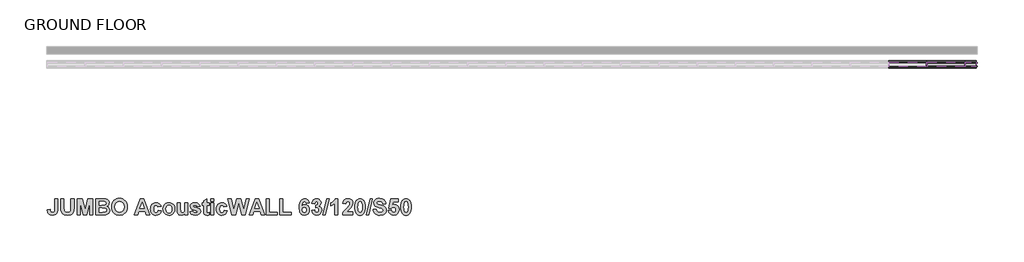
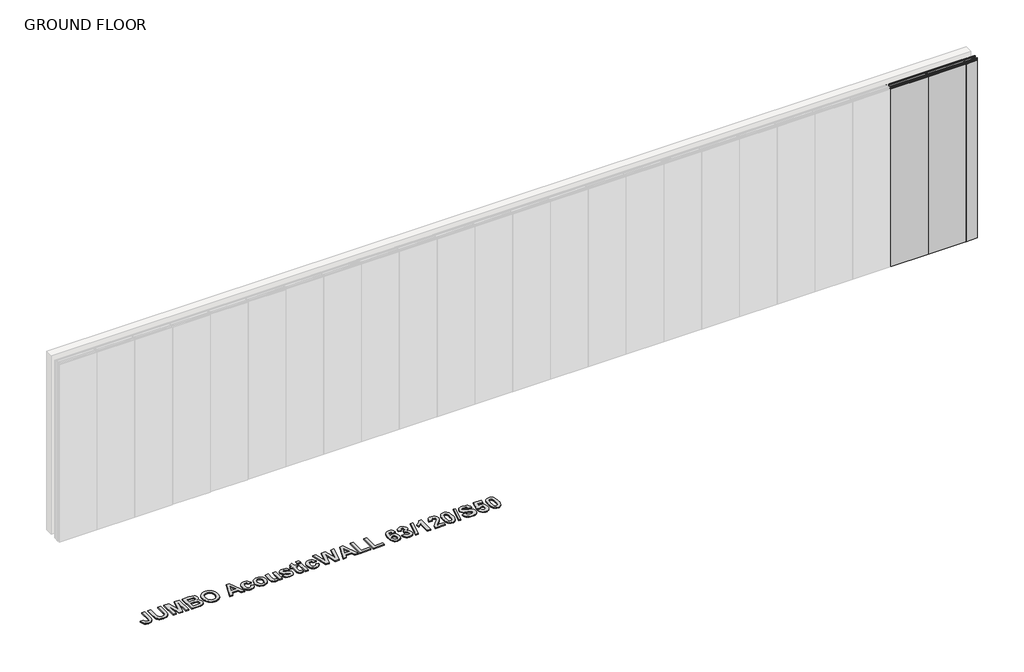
# One storey, part 2 of 2: 8 members, 3 plates, 1 proxy.
"""IFC4 building model written with IfcOpenShell, lengths in millimetres."""

import ifcopenshell
import ifcopenshell.guid

model = None  # the IFC model being written
_history = None  # IfcOwnerHistory: only IFC2X3 demands one
_inside = {}  # id of a spatial element -> (the spatial element, [elements in it])
_under = {}  # id of a project, library or spatial element -> (it, [spatial elements below it])
_declared = {}  # id of a project -> (the project, [libraries it declares])
_typed = {}  # id of a type object -> (the type object, [elements of that type])
_made_of = {}  # id of a material, layer set ... -> (it, [elements and type objects made of it])


def new_model(schema):
    """Start an empty IFC model of exactly this schema.

    Asked for "IFC4X3", IfcOpenShell would pick the latest addendum, in which some entities
    have other attributes; the version numbers below select the first issue.
    IFC2X3 requires an IfcOwnerHistory on every rooted entity: one is made here for all.
    """
    global model, _history
    if schema == "IFC4X3":
        model = ifcopenshell.file(schema_version=(4, 3, 0, 0))
    else:
        model = ifcopenshell.file(schema=schema)
    _inside.clear()
    _under.clear()
    _declared.clear()
    _typed.clear()
    _made_of.clear()
    _history = None
    if model.schema == "IFC2X3":
        org = make("IfcOrganization", Name="unknown")
        user = make(
            "IfcPersonAndOrganization",
            ThePerson=make("IfcPerson", FamilyName="unknown"),
            TheOrganization=org,
        )
        app = make(
            "IfcApplication",
            ApplicationDeveloper=org,
            Version="unknown",
            ApplicationFullName="unknown",
            ApplicationIdentifier="unknown",
        )
        _history = make(
            "IfcOwnerHistory",
            OwningUser=user,
            OwningApplication=app,
            ChangeAction="ADDED",
            CreationDate=0,
        )
    return model


def make(cls, **values):
    """One entity of the class cls with the attributes given. An attribute that is None is left unset."""
    return model.create_entity(
        cls, **{name: value for name, value in values.items() if value is not None}
    )


def rooted(cls, **values):
    """An entity with a GlobalId (a new one), such as an element, a storey or a relation."""
    return make(cls, GlobalId=ifcopenshell.guid.new(), OwnerHistory=_history, **values)


def si_unit(unit_type, name, prefix=None):
    """IfcSIUnit, for example si_unit("LENGTHUNIT", "METRE", prefix="MILLI")."""
    return make("IfcSIUnit", UnitType=unit_type, Prefix=prefix, Name=name)


def assignment(units):
    """IfcUnitAssignment: the units of a project."""
    return None if units is None else make("IfcUnitAssignment", Units=units)


def point(xyz):
    """IfcCartesianPoint."""
    return None if xyz is None else make("IfcCartesianPoint", Coordinates=xyz)


def direction(xyz):
    """IfcDirection."""
    return None if xyz is None else make("IfcDirection", DirectionRatios=xyz)


def frame(location, z_axis=None, x_axis=None):
    """IfcAxis2Placement3D, a coordinate frame: its origin and axes. An axis left out is left unset."""
    return make(
        "IfcAxis2Placement3D",
        Location=point(location),
        Axis=direction(z_axis),
        RefDirection=direction(x_axis),
    )


def origin():
    """The frame at (0, 0, 0) with its axes left unset."""
    return frame((0.0, 0.0, 0.0))


def origin_with_axes():
    """The frame at (0, 0, 0) with the z axis (0, 0, 1) and the x axis (1, 0, 0) written out."""
    return frame((0.0, 0.0, 0.0), z_axis=(0.0, 0.0, 1.0), x_axis=(1.0, 0.0, 0.0))


def place(relative_to, where):
    """IfcLocalPlacement: puts the frame where relative to a parent placement (None: the world)."""
    return make(
        "IfcLocalPlacement", PlacementRelTo=relative_to, RelativePlacement=where
    )


def context(
    kind, dimensions, precision=None, world=None, true_north=None, identifier=None
):
    """IfcGeometricRepresentationContext, for example the 3D "Model" context."""
    return make(
        "IfcGeometricRepresentationContext",
        ContextIdentifier=identifier,
        ContextType=kind,
        CoordinateSpaceDimension=dimensions,
        Precision=precision,
        WorldCoordinateSystem=world,
        TrueNorth=true_north,
    )


def project(units=None, contexts=None):
    """IfcProject with its units and contexts."""
    return rooted(
        "IfcProject",
        Name="project",
        RepresentationContexts=contexts,
        UnitsInContext=assignment(units),
    )


def spatial(cls, under=None, at=None, **own):
    """A site, building, storey or space (cls), placed at a placement, below another one or the project."""
    s = rooted(cls, ObjectPlacement=at, **own)
    if under is not None:
        _under.setdefault(under.id(), (under, []))[1].append(s)
    return s


def polyline(points):
    """IfcPolyline through the points."""
    return make("IfcPolyline", Points=[point(p) for p in points])


def outline(outer, holes=None, kind="AREA"):
    """IfcArbitraryClosedProfileDef: a profile drawn as a closed curve; with holes, ...WithVoids."""
    if holes is None:
        return make("IfcArbitraryClosedProfileDef", ProfileType=kind, OuterCurve=outer)
    return make(
        "IfcArbitraryProfileDefWithVoids",
        ProfileType=kind,
        OuterCurve=outer,
        InnerCurves=holes,
    )


def extrude(swept, where, along, depth):
    """IfcExtrudedAreaSolid: the profile swept, set in the frame where, extruded along a direction by depth."""
    return make(
        "IfcExtrudedAreaSolid",
        SweptArea=swept,
        Position=where,
        ExtrudedDirection=direction(along),
        Depth=depth,
    )


def shape(context_of_items, identifier, shape_type, items):
    """IfcShapeRepresentation: the items that make up one representation, for example the "Body"."""
    return make(
        "IfcShapeRepresentation",
        ContextOfItems=context_of_items,
        RepresentationIdentifier=identifier,
        RepresentationType=shape_type,
        Items=items,
    )


def source(mapping_origin, context_of_items, identifier, shape_type, items):
    """IfcRepresentationMap: a shape defined once, which mapped items show again and again."""
    return make(
        "IfcRepresentationMap",
        MappingOrigin=mapping_origin,
        MappedRepresentation=shape(context_of_items, identifier, shape_type, items),
    )


def transform(
    local_origin,
    x_axis=None,
    y_axis=None,
    z_axis=None,
    scale=None,
    scale2=None,
    scale3=None,
    uniform=True,
):
    """IfcCartesianTransformationOperator3D, or its non-uniform kind. x_axis, y_axis, z_axis: its Axis1, 2, 3."""
    if uniform:
        return make(
            "IfcCartesianTransformationOperator3D",
            Axis1=direction(x_axis),
            Axis2=direction(y_axis),
            LocalOrigin=point(local_origin),
            Scale=scale,
            Axis3=direction(z_axis),
        )
    return make(
        "IfcCartesianTransformationOperator3DnonUniform",
        Axis1=direction(x_axis),
        Axis2=direction(y_axis),
        LocalOrigin=point(local_origin),
        Scale=scale,
        Axis3=direction(z_axis),
        Scale2=scale2,
        Scale3=scale3,
    )


def mapped(mapping_source, mapping_target):
    """IfcMappedItem: shows the shape of a source again, moved by a transform."""
    return make(
        "IfcMappedItem", MappingSource=mapping_source, MappingTarget=mapping_target
    )


def made_of(thing, what):
    """Note that an element or type object is made of a material, layer set ...; save() writes the relation."""
    if what is not None:
        _made_of.setdefault(what.id(), (what, []))[1].append(thing)
    return thing


def element(
    cls,
    number,
    at=None,
    inside=None,
    cuts=None,
    type_object=None,
    material=None,
    context=None,
    identifier="Body",
    shape_type=None,
    held_by="IfcProductDefinitionShape",
    body=None,
    shapes=None,
    **own,
):
    """One element of the class cls, such as IfcWall. Its Tag is "e" and its number.

    at: its placement. inside: the storey or other place that contains it. cuts: it is an
    opening in that element (IfcRelVoidsElement). A single representation is given by context,
    identifier, shape_type and body (its items); several are given by shapes. held_by: the class
    of the entity that holds the representations. save() writes the other relations.
    """
    e = rooted(cls, Tag="e%d" % number, ObjectPlacement=at, **own)
    if body is not None:
        shapes = [shape(context, identifier, shape_type, body)]
    if shapes is not None:
        e.Representation = make(held_by, Representations=shapes)
    if inside is not None:
        _inside.setdefault(inside.id(), (inside, []))[1].append(e)
    if cuts is not None:
        rooted(
            "IfcRelVoidsElement", RelatingBuildingElement=cuts, RelatedOpeningElement=e
        )
    if type_object is not None:
        _typed.setdefault(type_object.id(), (type_object, []))[1].append(e)
    return made_of(e, material)


def aggregate(whole, parts):
    """IfcRelAggregates: a whole, such as a stair, and the parts it consists of."""
    return rooted("IfcRelAggregates", RelatingObject=whole, RelatedObjects=parts)


def save(model, path):
    """Write the relations noted so far, then the file.

    IfcRelAggregates (storeys below a building ...), IfcRelContainedInSpatialStructure (elements
    in a storey), IfcRelDefinesByType, IfcRelAssociatesMaterial and IfcRelDeclares: one each for
    every whole, place, type object, material and project.
    """
    for whole, parts in _under.values():
        aggregate(whole, parts)
    for where, things in _inside.values():
        rooted(
            "IfcRelContainedInSpatialStructure",
            RelatedElements=things,
            RelatingStructure=where,
        )
    for kind, things in _typed.values():
        rooted("IfcRelDefinesByType", RelatedObjects=things, RelatingType=kind)
    for what, things in _made_of.values():
        rooted("IfcRelAssociatesMaterial", RelatedObjects=things, RelatingMaterial=what)
    for by, libraries in _declared.values():
        rooted("IfcRelDeclares", RelatingContext=by, RelatedDefinitions=libraries)
    model.write(path)


def rectangular_mullion_stud_mullion_63mm_b2ef130e(model_context):
    return source(origin(), model_context, "Body", "SweptSolid", [
        extrude(outline(polyline([(0.0, 23.5), (-1.6, 23.5), (-1.6, 29.9), (-17.4, 29.9), (-17.4, -29.9), (-1.6, -29.9), (-1.6, -23.5), (0.0, -23.5), (0.0, -31.5), (-19.0, -31.5), (-19.0, 31.5), (0.0, 31.5), (0.0, 23.5)])), frame((0.0, 0.0, -161.9999997), z_axis=(0.0, 0.0, 1.0), x_axis=(1.0, 0.0, 0.0)), (0.0, 0.0, 1.0), 161.9999997),
    ])


def rectangular_mullion_stud_mullion_63mm_af775e70(model_context):
    return source(origin(), model_context, "Body", "SweptSolid", [
        extrude(outline(polyline([(-19.0, 23.5), (-19.0, 31.5), (0.0, 31.5), (0.0, -31.5), (-19.0, -31.5), (-19.0, -23.5), (-17.4, -23.5), (-17.4, -29.9), (-1.6, -29.9), (-1.6, 29.9), (-17.4, 29.9), (-17.4, 23.5), (-19.0, 23.5)])), frame((0.0, 0.0, -581.0000003), z_axis=(0.0, 0.0, 1.0), x_axis=(1.0, 0.0, 0.0)), (0.0, 0.0, 1.0), 581.0000003),
    ])


def rectangular_mullion_stud_mullion_63mm_c22ba0a2(model_context):
    return source(origin(), model_context, "Body", "SweptSolid", [
        extrude(outline(polyline([(0.0, 23.5), (-1.6, 23.5), (-1.6, 29.9), (-17.4, 29.9), (-17.4, -29.9), (-1.6, -29.9), (-1.6, -23.5), (0.0, -23.5), (0.0, -31.5), (-19.0, -31.5), (-19.0, 31.5), (0.0, 31.5), (0.0, 23.5)])), frame((0.0, 0.0, -3000.0), z_axis=(0.0, 0.0, 1.0), x_axis=(1.0, 0.0, 0.0)), (0.0, 0.0, 1.0), 3000.0),
    ])


def rectangular_mullion_stud_mullion_63mm_ab3eab4e(model_context):
    return source(origin(), model_context, "Body", "SweptSolid", [
        extrude(outline(polyline([(0.0, 23.5), (-1.6, 23.5), (-1.6, 29.9), (-17.4, 29.9), (-17.4, -29.9), (-1.6, -29.9), (-1.6, -23.5), (0.0, -23.5), (0.0, -31.5), (-19.0, -31.5), (-19.0, 31.5), (0.0, 31.5), (0.0, 23.5)])), frame((0.0, 0.0, -581.0000003), z_axis=(0.0, 0.0, 1.0), x_axis=(1.0, 0.0, 0.0)), (0.0, 0.0, 1.0), 581.0000003),
    ])


def rectangular_mullion_stud_mullion_63mm_06861ceb(model_context):
    return source(origin(), model_context, "Body", "SweptSolid", [
        extrude(outline(polyline([(-19.0, 23.5), (-19.0, 31.5), (0.0, 31.5), (0.0, -31.5), (-19.0, -31.5), (-19.0, -23.5), (-17.4, -23.5), (-17.4, -29.9), (-1.6, -29.9), (-1.6, 29.9), (-17.4, 29.9), (-17.4, 23.5), (-19.0, 23.5)])), frame((0.0, 0.0, -161.9999997), z_axis=(0.0, 0.0, 1.0), x_axis=(1.0, 0.0, 0.0)), (0.0, 0.0, 1.0), 161.9999997),
    ])


def rectangular_mullion_stud_mullion_63mm_08592bac(model_context):
    return source(origin(), model_context, "Body", "SweptSolid", [
        extrude(outline(polyline([(9.5, 23.5), (7.9, 23.5), (7.9, 29.9), (-7.9, 29.9), (-7.9, -29.9), (7.9, -29.9), (7.9, -23.5), (9.5, -23.5), (9.5, -31.5), (-9.5, -31.5), (-9.5, 31.5), (9.5, 31.5), (9.5, 23.5)])), frame((0.0, 0.0, -3000.0), z_axis=(0.0, 0.0, 1.0), x_axis=(1.0, 0.0, 0.0)), (0.0, 0.0, 1.0), 3000.0),
    ])


def plate_2_layer_30mm_drywall_panels_124mm_1495f93a(model_context):
    return source(origin(), model_context, "Body", "SweptSolid", [
        extrude(outline(polyline([(299.2000002, 46.5), (-299.2000002, 46.5), (-299.2000002, 61.5), (299.2000002, 61.5), (299.2000002, 46.5)])), origin_with_axes(), (0.0, 0.0, 1.0), 2979.4),
        extrude(outline(polyline([(299.2000002, -46.5), (-299.2000002, -46.5), (-299.2000002, -31.5), (299.2000002, -31.5), (299.2000002, -46.5)])), origin_with_axes(), (0.0, 0.0, 1.0), 2979.4),
        extrude(outline(polyline([(299.2000002, 31.5), (-299.2000002, 31.5), (-299.2000002, 46.5), (299.2000002, 46.5), (299.2000002, 31.5)])), origin_with_axes(), (0.0, 0.0, 1.0), 2979.4),
        extrude(outline(polyline([(299.2000002, -46.5), (299.2000002, -61.5), (-299.2000002, -61.5), (-299.2000002, -46.5), (299.2000002, -46.5)])), origin_with_axes(), (0.0, 0.0, 1.0), 2979.4),
    ])


def plate_2_layer_30mm_drywall_panels_124mm_3bb38d6b(model_context):
    return source(origin(), model_context, "Body", "SweptSolid", [
        extrude(outline(polyline([(89.6999998, 46.5), (-89.6999998, 46.5), (-89.6999998, 61.5), (89.6999998, 61.5), (89.6999998, 46.5)])), origin_with_axes(), (0.0, 0.0, 1.0), 2979.4),
        extrude(outline(polyline([(89.6999998, -46.5), (-89.6999998, -46.5), (-89.6999998, -31.5), (89.6999998, -31.5), (89.6999998, -46.5)])), origin_with_axes(), (0.0, 0.0, 1.0), 2979.4),
        extrude(outline(polyline([(89.6999998, 31.5), (-89.6999998, 31.5), (-89.6999998, 46.5), (89.6999998, 46.5), (89.6999998, 31.5)])), origin_with_axes(), (0.0, 0.0, 1.0), 2979.4),
        extrude(outline(polyline([(89.6999998, -46.5), (89.6999998, -61.5), (-89.6999998, -61.5), (-89.6999998, -46.5), (89.6999998, -46.5)])), origin_with_axes(), (0.0, 0.0, 1.0), 2979.4),
    ])


model = new_model("IFC4")

# Units and contexts
model_context = context("Model", 3, world=origin())
ifc_project = project(units=[si_unit("LENGTHUNIT", "METRE", prefix="MILLI")], contexts=[model_context])

# Site, building, storey
site = spatial("IfcSite", under=ifc_project)
building = spatial("IfcBuilding", under=site)
storey = spatial("IfcBuildingStorey", under=building, Name="GROUND FLOOR", Elevation=0.0)

# Proxy
placement = place(None, origin())
element("IfcBuildingElementProxy", 1, Name="600mm Arial", ObjectType="600mm Arial", at=placement, inside=storey, context=model_context, shape_type="SweptSolid", body=[
    extrude(outline(polyline([(61762.9500241, -51331.743976), (61811.5338051, -51331.743976), (61811.5338051, -51492.994051), (61810.1104521, -51520.9866592), (61805.8403932, -51541.7043522), (61795.149431, -51561.7261838), (61778.2589759, -51577.3830664), (61755.0741377, -51587.4888724), (61725.5000263, -51590.8574744), (61691.5293357, -51585.4566406), (61677.8651473, -51578.7055985), (61666.4150635, -51569.2541395), (61657.3530497, -51557.1892463), (61650.8530712, -51542.5979016), (61645.5392201, -51505.8358577), (61694.1230011, -51501.7872093), (61696.3529207, -51520.417318), (61701.1448757, -51532.6581534), (61712.5633294, -51542.9062947), (61728.726293, -51546.3223418), (61744.7073837, -51543.8710117), (61755.200658, -51536.5170215), (61761.0126826, -51521.4611102), (61762.9500241, -51495.9040171), (61762.9500241, -51331.743976)])), origin_with_axes(), (0.0, 0.0, 1.0), 15.0),
    extrude(outline(polyline([(61860.117586, -51331.743976), (61908.701367, -51331.743976), (61908.701367, -51469.3347619), (61910.7889513, -51511.8455702), (61916.8777389, -51525.8814119), (61927.9324469, -51536.8649522), (61943.9530752, -51543.9579944), (61964.9396238, -51546.3223418), (61985.9024499, -51544.0924222), (62000.9662687, -51537.4026633), (62010.6687913, -51527.4629151), (62015.547729, -51515.4830277), (62018.0148741, -51472.307988), (62018.0148741, -51331.743976), (62066.598655, -51331.743976), (62066.598655, -51465.539154), (62062.3602262, -51530.3807887), (62056.3346987, -51547.8326775), (62046.7349738, -51562.3587851), (62033.4266236, -51574.085632), (62016.2752205, -51583.1397383), (61994.2844173, -51588.9280404), (61966.457867, -51590.8574744), (61933.8630842, -51588.754075), (61910.2196101, -51582.4438769), (61893.0602995, -51572.7650768), (61879.9180071, -51560.5558714), (61870.682028, -51546.7493477), (61865.2416567, -51532.2785926), (61861.3986037, -51505.1716263), (61860.117586, -51467.6267383), (61860.117586, -51331.743976)])), origin_with_axes(), (0.0, 0.0, 1.0), 15.0),
    extrude(outline(polyline([(62115.182436, -51586.808826), (62115.182436, -51331.743976), (62198.432769, -51331.743976), (62238.6662126, -51505.7093374), (62278.8996562, -51331.743976), (62362.1499892, -51331.743976), (62362.1499892, -51586.808826), (62313.5662082, -51586.808826), (62311.541884, -51386.0211687), (62267.1332717, -51586.808826), (62210.2624136, -51586.808826), (62165.7905412, -51386.0211687), (62163.7662169, -51586.808826), (62115.182436, -51586.808826)])), origin_with_axes(), (0.0, 0.0, 1.0), 15.0),
    extrude(outline(polyline([(62410.7337701, -51331.743976), (62515.4292877, -51331.743976), (62561.7673339, -51334.2743812), (62589.0957107, -51344.8704532), (62600.1425112, -51354.2645828), (62609.1808025, -51366.3156378), (62615.20633, -51380.5096298), (62617.2148391, -51396.3325702), (62614.8188617, -51413.570956), (62607.6309292, -51429.3543588), (62596.3310883, -51442.5282812), (62581.5993851, -51451.9382257), (62600.2294939, -51461.0793147), (62613.9885724, -51474.9649136), (62622.4812451, -51492.6619353), (62625.312136, -51513.2372931), (62623.2799042, -51530.3254361), (62617.1832091, -51546.9233131), (62607.5676691, -51561.6312936), (62594.9789029, -51573.0497474), (62579.2666678, -51580.9493563), (62560.2807208, -51585.1008024), (62497.9062312, -51586.808826), (62410.7337701, -51586.808826), (62410.7337701, -51331.743976)]), holes=[polyline([(62459.3175511, -51376.2791085), (62459.3175511, -51432.9601863), (62496.3879881, -51432.9601863), (62537.5070735, -51432.1378046), (62550.4516779, -51429.1803934), (62560.3123509, -51423.3446463), (62566.5513814, -51414.9152338), (62568.6310582, -51404.1768265), (62566.836052, -51393.9049626), (62561.4510333, -51385.7364982), (62552.5392623, -51380.0193638), (62540.163999, -51377.1014902), (62491.8332586, -51376.2791085), (62459.3175511, -51376.2791085)]), polyline([(62459.3175511, -51477.4953188), (62459.3175511, -51542.2736934), (62510.6847778, -51542.2736934), (62548.7673769, -51540.7554503), (62560.0118653, -51537.3631257), (62568.9473589, -51531.1082802), (62574.783106, -51522.117434), (62576.728355, -51510.5171074), (62575.2259269, -51500.4587465), (62570.7186425, -51492.045149), (62553.3853665, -51480.974626), (62504.1689843, -51477.4953188), (62459.3175511, -51477.4953188)])]), origin_with_axes(), (0.0, 0.0, 1.0), 15.0),
    extrude(outline(polyline([(62657.7013233, -51460.8579042), (62660.5638442, -51425.0842999), (62669.1514071, -51395.5734486), (62679.2493055, -51377.1410278), (62692.4627655, -51360.6854861), (62707.9377752, -51347.2189856), (62724.8203227, -51337.7536884), (62750.0294851, -51330.2099178), (62778.844475, -51327.6953275), (62805.1369671, -51329.8758252), (62828.6618285, -51336.4173182), (62849.4190591, -51347.3198065), (62867.408659, -51362.58329), (62881.9387205, -51381.7293642), (62892.3173358, -51404.2796242), (62898.544505, -51430.23407), (62900.620228, -51459.5927016), (62898.56032, -51488.7516685), (62892.3805959, -51514.5499408), (62882.0810558, -51536.9875187), (62867.6616995, -51556.0644021), (62849.7907124, -51571.2863712), (62829.1362795, -51582.1592063), (62805.6984008, -51588.6829073), (62779.4770763, -51590.8574744), (62752.9789887, -51588.6927917), (62729.3434221, -51582.1987439), (62708.5703765, -51571.3753308), (62690.6598518, -51556.2225524), (62676.2404955, -51537.2741661), (62665.9409554, -51515.0639294), (62659.7612313, -51489.5918421), (62657.7013233, -51460.8579042)]), holes=[polyline([(62706.2851042, -51459.0866206), (62711.4487125, -51496.837104), (62717.9032227, -51511.8099864), (62726.9395371, -51524.1812958), (62750.3853234, -51540.7870803), (62779.4138162, -51546.3223418), (62808.3790489, -51540.8266179), (62831.6350547, -51524.3394461), (62840.5606639, -51511.9740673), (62846.936099, -51496.8608266), (62852.0364471, -51458.3907591), (62847.0705268, -51420.4979404), (62840.8631264, -51405.6792546), (62832.1727658, -51393.6123845), (62809.0511878, -51377.5759412), (62779.4138162, -51372.2304601), (62749.7131845, -51377.6392013), (62726.401826, -51393.865425), (62717.6007602, -51406.0548616), (62711.3142847, -51420.9882064), (62706.2851042, -51459.0866206)])]), origin_with_axes(), (0.0, 0.0, 1.0), 15.0),
    extrude(outline(polyline([(63252.8526399, -51586.808826), (63201.8017138, -51586.808826), (63181.8115123, -51530.1277482), (63085.4663321, -51530.1277482), (63065.7291711, -51586.808826), (63013.9823836, -51586.808826), (63107.1012971, -51331.743976), (63158.8480846, -51331.743976), (63252.8526399, -51586.808826)]), holes=[polyline([(63166.24952, -51485.5926156), (63133.4175117, -51392.4737021), (63101.0283244, -51485.5926156), (63166.24952, -51485.5926156)])]), origin_with_axes(), (0.0, 0.0, 1.0), 15.0),
    extrude(outline(polyline([(63430.9931701, -51453.2034283), (63382.4093891, -51461.3007252), (63378.6849489, -51448.941277), (63372.0663576, -51440.0769511), (63362.7908409, -51434.7393775), (63351.095624, -51432.9601863), (63335.691782, -51436.2971582), (63323.7672473, -51446.308074), (63316.1285864, -51464.131616), (63313.5823661, -51490.9064667), (63316.2313841, -51520.5912834), (63324.1784381, -51540.0595888), (63336.5853314, -51550.8296262), (63352.6138672, -51554.4196387), (63364.7519049, -51552.3715919), (63374.4702426, -51546.2274516), (63381.7214352, -51535.0699459), (63386.4580375, -51517.9818029), (63435.0418185, -51526.0790998), (63424.4062089, -51554.2219507), (63407.0492103, -51574.5047304), (63382.8126725, -51586.7692884), (63351.538445, -51590.8574744), (63332.7719316, -51589.2482948), (63316.0099736, -51584.420756), (63301.2525711, -51576.374858), (63288.499724, -51565.1106009), (63278.2179757, -51551.0035916), (63270.8738699, -51534.4294371), (63266.4674063, -51515.3881375), (63264.9985852, -51493.8796929), (63266.4575219, -51472.128092), (63270.8343323, -51452.9266653), (63278.1290162, -51436.2754125), (63288.3415737, -51422.1743339), (63301.0449988, -51410.9515912), (63315.8122857, -51402.9353464), (63332.6434345, -51398.1255995), (63351.538445, -51396.5223506), (63380.7804407, -51400.0253803), (63403.3484926, -51410.5344697), (63419.875202, -51428.2077689), (63430.9931701, -51453.2034283)])), origin_with_axes(), (0.0, 0.0, 1.0), 15.0),
    extrude(outline(polyline([(63459.333709, -51491.0329869), (63462.3306577, -51466.9387844), (63471.3215039, -51443.6195184), (63485.8001664, -51423.3999989), (63505.2605644, -51408.6050357), (63528.4928477, -51399.5430218), (63554.2871663, -51396.5223506), (63574.2793447, -51398.2343279), (63592.3776729, -51403.3702598), (63608.5821509, -51411.9301463), (63622.8927788, -51423.9139875), (63634.5860187, -51438.5152166), (63642.938333, -51454.9272669), (63647.9497215, -51473.1501385), (63649.6201843, -51493.1838314), (63647.9319296, -51513.3776515), (63642.8671653, -51531.7646041), (63634.4258915, -51548.3446892), (63622.6081082, -51563.1179067), (63608.2322433, -51575.2539676), (63592.1167249, -51583.9225825), (63574.2615528, -51589.1237514), (63554.666727, -51590.8574744), (63529.8924781, -51587.9712309), (63506.3043566, -51579.3125004), (63486.0611145, -51565.0710633), (63471.3215039, -51545.4367), (63462.3306577, -51520.6703585), (63459.333709, -51491.0329869)]), holes=[polyline([(63507.9174899, -51493.6899125), (63511.2781844, -51519.6661039), (63521.3602678, -51538.7627561), (63536.3766415, -51550.505418), (63554.5402068, -51554.4196387), (63572.687957, -51550.505418), (63587.6568856, -51538.7627561), (63597.6915239, -51519.5712137), (63601.0364034, -51493.3103517), (63597.6915239, -51467.6188308), (63587.6568856, -51448.6170688), (63572.687957, -51436.8744069), (63554.5402068, -51432.9601863), (63536.3766415, -51436.8744069), (63521.3602678, -51448.6170688), (63511.2781844, -51467.713721), (63507.9174899, -51493.6899125)])]), origin_with_axes(), (0.0, 0.0, 1.0), 15.0),
    extrude(outline(polyline([(63803.468824, -51586.808826), (63803.468824, -51559.4804492), (63792.2796883, -51572.5357588), (63778.0698812, -51582.4755069), (63761.8990101, -51588.7619825), (63744.8266822, -51590.8574744), (63727.9520421, -51588.8015201), (63712.8803158, -51582.6336573), (63700.6711104, -51572.7413542), (63692.3840332, -51559.5120792), (63687.6395233, -51541.7597048), (63686.0580201, -51518.2981036), (63686.0580201, -51400.570999), (63734.641801, -51400.570999), (63734.641801, -51486.6680379), (63737.2670965, -51535.0936685), (63746.8826364, -51549.2006778), (63764.6271033, -51554.4196387), (63776.25906, -51552.679985), (63786.609999, -51547.4610242), (63794.786371, -51539.6563055), (63799.8946266, -51530.1593782), (63803.468824, -51479.5829032), (63803.468824, -51400.570999), (63852.052605, -51400.570999), (63852.052605, -51586.808826), (63803.468824, -51586.808826)])), origin_with_axes(), (0.0, 0.0, 1.0), 15.0),
    extrude(outline(polyline([(63880.3931439, -51534.1763966), (63928.9769248, -51526.0790998), (63933.6028219, -51538.3199352), (63941.4075406, -51547.2079837), (63952.6599365, -51552.6167249), (63967.6288651, -51554.4196387), (63983.8709039, -51552.6958001), (63995.5265831, -51547.5242843), (64000.2710929, -51541.8941326), (64001.8525962, -51534.6192175), (63998.4998093, -51525.5097586), (63982.6215163, -51519.1204853), (63935.6983138, -51506.6898695), (63909.809105, -51495.3346759), (63893.8201068, -51477.3529835), (63888.4904407, -51453.519729), (63893.0609852, -51431.3312379), (63906.7726187, -51412.9699847), (63930.0997921, -51400.6342591), (63963.5169566, -51396.5223506), (63995.3842478, -51399.8435075), (64017.8574095, -51409.8069782), (64032.8658757, -51426.2862424), (64042.3390804, -51449.1547799), (63993.7552994, -51457.2520767), (63990.181102, -51446.8616002), (63984.3928, -51439.2229393), (63976.0424626, -51434.5258745), (63964.7821592, -51432.9601863), (63950.9440055, -51434.288649), (63941.6922112, -51438.2740373), (63937.0742216, -51448.1426178), (63941.6922112, -51456.9357761), (63984.6774705, -51470.5367044), (64015.9042529, -51480.3578398), (64036.0130672, -51492.2349294), (64046.8305497, -51507.907627), (64050.4363772, -51528.7360253), (64045.2095088, -51552.434852), (64029.5289037, -51572.5436663), (64017.8198488, -51580.5559573), (64003.6001574, -51586.2790223), (63967.6288651, -51590.8574744), (63934.3144984, -51587.0460514), (63908.7653128, -51575.6117827), (63890.8389731, -51557.6300903), (63880.3931439, -51534.1763966)])), origin_with_axes(), (0.0, 0.0, 1.0), 15.0),
    extrude(outline(polyline([(64184.0417748, -51400.570999), (64184.0417748, -51437.0088347), (64147.6039391, -51437.0088347), (64147.6039391, -51516.9063807), (64148.7109914, -51545.1520294), (64153.7401718, -51551.7943432), (64163.2924517, -51554.4196387), (64186.066099, -51549.7383889), (64188.0904232, -51584.2784207), (64169.3496093, -51589.2127109), (64148.2998005, -51590.8574744), (64123.7548695, -51586.3027449), (64107.7184262, -51574.5363605), (64100.6016614, -51554.9889798), (64099.0201581, -51519.6265664), (64099.0201581, -51437.0088347), (64074.7282677, -51437.0088347), (64074.7282677, -51400.570999), (64099.0201581, -51400.570999), (64099.0201581, -51364.1331633), (64147.6039391, -51335.7926244), (64147.6039391, -51400.570999), (64184.0417748, -51400.570999)])), origin_with_axes(), (0.0, 0.0, 1.0), 15.0),
    extrude(outline(polyline([(64212.3823137, -51376.2791085), (64212.3823137, -51331.743976), (64260.9660946, -51331.743976), (64260.9660946, -51376.2791085), (64212.3823137, -51376.2791085)])), origin_with_axes(), (0.0, 0.0, 1.0), 15.0),
    extrude(outline(polyline([(64212.3823137, -51586.808826), (64212.3823137, -51400.570999), (64260.9660946, -51400.570999), (64260.9660946, -51586.808826), (64212.3823137, -51586.808826)])), origin_with_axes(), (0.0, 0.0, 1.0), 15.0),
    extrude(outline(polyline([(64463.3985153, -51453.2034283), (64414.8147343, -51461.3007252), (64411.0902941, -51448.941277), (64404.4717028, -51440.0769511), (64395.196186, -51434.7393775), (64383.5009692, -51432.9601863), (64368.0971272, -51436.2971582), (64356.1725925, -51446.308074), (64348.5339316, -51464.131616), (64345.9877113, -51490.9064667), (64348.6367293, -51520.5912834), (64356.5837833, -51540.0595888), (64368.9906766, -51550.8296262), (64385.0192124, -51554.4196387), (64397.1572501, -51552.3715919), (64406.8755878, -51546.2274516), (64414.1267804, -51535.0699459), (64418.8633827, -51517.9818029), (64467.4471637, -51526.0790998), (64456.8115541, -51554.2219507), (64439.4545555, -51574.5047304), (64415.2180176, -51586.7692884), (64383.9437902, -51590.8574744), (64365.1772768, -51589.2482948), (64348.4153188, -51584.420756), (64333.6579163, -51576.374858), (64320.9050692, -51565.1106009), (64310.6233209, -51551.0035916), (64303.2792151, -51534.4294371), (64298.8727515, -51515.3881375), (64297.4039303, -51493.8796929), (64298.8628671, -51472.128092), (64303.2396775, -51452.9266653), (64310.5343614, -51436.2754125), (64320.7469188, -51422.1743339), (64333.450344, -51410.9515912), (64348.2176309, -51402.9353464), (64365.0487797, -51398.1255995), (64383.9437902, -51396.5223506), (64413.1857859, -51400.0253803), (64435.7538378, -51410.5344697), (64452.2805472, -51428.2077689), (64463.3985153, -51453.2034283)])), origin_with_axes(), (0.0, 0.0, 1.0), 15.0),
    extrude(outline(polyline([(65054.5011835, -51586.808826), (65003.4502574, -51586.808826), (64983.4600559, -51530.1277482), (64887.1148757, -51530.1277482), (64867.3777147, -51586.808826), (64815.6309272, -51586.808826), (64908.7498406, -51331.743976), (64960.4966282, -51331.743976), (65054.5011835, -51586.808826)]), holes=[polyline([(64967.8980635, -51485.5926156), (64935.0660553, -51392.4737021), (64902.676868, -51485.5926156), (64967.8980635, -51485.5926156)])]), origin_with_axes(), (0.0, 0.0, 1.0), 15.0),
    extrude(outline(polyline([(64543.8021423, -51586.808826), (64479.5931089, -51331.743976), (64529.4420925, -51331.743976), (64570.6876982, -51506.9745401), (64615.0330503, -51331.743976), (64680.3807661, -51331.743976), (64724.5363379, -51509.8845061), (64765.7819436, -51331.743976), (64815.6309272, -51331.743976), (64752.3707957, -51586.808826), (64694.8673362, -51586.808826), (64647.612018, -51396.1427898), (64599.4077979, -51586.808826), (64543.8021423, -51586.808826)])), origin_with_axes(), (0.0, 0.0, 1.0), 15.0),
    extrude(outline(polyline([(65078.793074, -51586.808826), (65078.793074, -51331.743976), (65127.3768549, -51331.743976), (65127.3768549, -51542.2736934), (65256.9336041, -51542.2736934), (65256.9336041, -51586.808826), (65078.793074, -51586.808826)])), origin_with_axes(), (0.0, 0.0, 1.0), 15.0),
    extrude(outline(polyline([(65293.3714398, -51586.808826), (65293.3714398, -51331.743976), (65341.9552208, -51331.743976), (65341.9552208, -51542.2736934), (65471.51197, -51542.2736934), (65471.51197, -51586.808826), (65293.3714398, -51586.808826)])), origin_with_axes(), (0.0, 0.0, 1.0), 15.0),
    extrude(outline(polyline([(65754.9173589, -51399.4323166), (65706.3335779, -51404.6196474), (65703.3603517, -51392.0229737), (65697.7302, -51383.2060929), (65689.7277934, -51378.0108546), (65679.6378024, -51376.2791085), (65666.0368742, -51379.639803), (65654.7133106, -51389.7218864), (65646.4104184, -51410.5581922), (65641.871504, -51446.1815537), (65661.8933356, -51430.1925555), (65686.2801162, -51424.8628894), (65714.1066666, -51430.5563013), (65737.6157129, -51447.6365368), (65753.6284337, -51473.715526), (65758.9660073, -51506.4051989), (65753.5098209, -51540.8424329), (65746.689588, -51555.232136), (65737.1412619, -51567.7358963), (65725.4499989, -51577.8515867), (65712.2009551, -51585.0770799), (65681.0295253, -51590.8574744), (65663.4985614, -51588.9913005), (65647.5965459, -51583.3927789), (65633.3234787, -51574.0619095), (65620.6793599, -51560.9986923), (65610.3284209, -51543.6851851), (65602.9348931, -51521.6034455), (65598.4987763, -51494.7534734), (65597.0200708, -51463.135269), (65598.5640134, -51430.6828215), (65603.1958411, -51403.1014042), (65610.915554, -51380.391017), (65621.7231521, -51362.55166), (65634.9978953, -51349.0732982), (65650.1190436, -51339.445897), (65667.086597, -51333.6694562), (65685.9005554, -51331.743976), (65711.2204231, -51336.077295), (65731.7641507, -51349.077252), (65746.6302816, -51370.3326561), (65754.9173589, -51399.4323166)]), holes=[polyline([(65645.6038517, -51505.3297766), (65648.2291472, -51522.7500353), (65656.1050335, -51535.6630097), (65667.3495219, -51543.6575088), (65680.0806234, -51546.3223418), (65691.9735281, -51544.1398673), (65701.7155883, -51537.5924437), (65708.2155668, -51526.0632847), (65710.3822263, -51508.9356041), (65708.049509, -51491.1832298), (65701.0513569, -51478.9186718), (65690.5580826, -51471.7781844), (65677.7399985, -51469.398022), (65665.3014751, -51471.6753867), (65654.9347211, -51478.5074809), (65647.9365691, -51489.7677843), (65645.6038517, -51505.3297766)])]), origin_with_axes(), (0.0, 0.0, 1.0), 15.0),
    extrude(outline(polyline([(65791.3551946, -51515.5146578), (65839.9389755, -51509.8845061), (65843.6871383, -51525.5097586), (65850.8829783, -51536.9598424), (65860.7357437, -51543.981717), (65872.4546831, -51546.3223418), (65885.0276342, -51543.6416938), (65895.4181108, -51535.5997495), (65902.3925403, -51523.0188909), (65904.7173501, -51506.7214995), (65902.5902282, -51491.3018425), (65896.2088624, -51479.4563829), (65886.7593803, -51471.9126122), (65875.4279093, -51469.398022), (65856.1335692, -51473.0038495), (65860.371998, -51432.9601863), (65874.2022442, -51431.2205327), (65884.3159577, -51424.9894097), (65890.5075431, -51415.1208292), (65892.5714049, -51402.4688029), (65891.0294392, -51391.7224881), (65886.4035421, -51383.3958733), (65879.2156096, -51378.0582997), (65869.987538, -51376.2791085), (65860.601316, -51378.3429703), (65852.685892, -51384.5345557), (65846.9213125, -51394.6957143), (65843.9876239, -51408.6682958), (65795.403843, -51401.3933807), (65800.962827, -51379.655618), (65808.7833608, -51362.7730704), (65819.5059531, -51349.8600961), (65833.7711127, -51340.0310532), (65850.7643655, -51333.8157453), (65869.6712373, -51331.743976), (65900.320771, -51337.4848329), (65913.1072251, -51344.6609041), (65924.2014706, -51354.7074037), (65936.916757, -51374.7292353), (65941.1551858, -51397.218212), (65938.8817749, -51413.1637189), (65932.0615419, -51427.4091097), (65920.6944871, -51439.9543846), (65904.7806103, -51450.7995433), (65924.6442915, -51458.3512215), (65940.0797636, -51471.6437567), (65949.9957892, -51489.5068363), (65953.3011311, -51510.770148), (65947.4416614, -51541.5382944), (65929.8632524, -51567.4195957), (65917.4267059, -51577.6736676), (65903.5549452, -51584.9980047), (65871.5057811, -51590.8574744), (65841.2437157, -51585.646421), (65816.6276171, -51570.0132611), (65799.4129538, -51545.9665036), (65791.3551946, -51515.5146578)])), origin_with_axes(), (0.0, 0.0, 1.0), 15.0),
    extrude(outline(polyline([(65968.6100829, -51586.808826), (66029.3398091, -51331.743976), (66066.6632866, -51331.743976), (66005.9335604, -51586.808826), (65968.6100829, -51586.808826)])), origin_with_axes(), (0.0, 0.0, 1.0), 15.0),
    extrude(outline(polyline([(66204.3173326, -51586.808826), (66155.7335517, -51586.808826), (66155.7335517, -51404.4931271), (66127.6776834, -51428.3738267), (66095.0038255, -51445.1061315), (66095.0038255, -51396.5223506), (66114.472131, -51387.4366142), (66135.5535698, -51372.7049111), (66154.0097131, -51353.6873341), (66165.6021322, -51331.743976), (66204.3173326, -51331.743976), (66204.3173326, -51586.808826)])), origin_with_axes(), (0.0, 0.0, 1.0), 15.0),
    extrude(outline(polyline([(66439.1389406, -51538.225045), (66439.1389406, -51586.808826), (66277.1930041, -51586.808826), (66282.3645198, -51562.3034325), (66292.6917363, -51539.1423169), (66311.8753711, -51512.96053), (66343.6161421, -51479.3931228), (66381.1926602, -51438.6535981), (66388.2145348, -51423.9456175), (66390.5551596, -51409.4274174), (66388.586188, -51395.2808705), (66382.6792733, -51384.8508563), (66373.3088663, -51378.4220455), (66360.9494181, -51376.2791085), (66348.6769526, -51378.3904154), (66339.1879329, -51384.724336), (66332.7986596, -51395.9451019), (66329.8254334, -51412.7169442), (66281.2416525, -51408.288735), (66289.8450304, -51373.1398245), (66297.4678762, -51359.9006651), (66307.3048266, -51349.551703), (66331.9288328, -51336.1959077), (66362.0248403, -51331.743976), (66394.1609871, -51336.7336188), (66418.5793979, -51351.7025474), (66433.9990549, -51374.0887264), (66439.1389406, -51401.3301206), (66433.5087889, -51433.4662673), (66415.6694318, -51465.4126337), (66385.462719, -51497.29574), (66357.7231514, -51524.9404174), (66348.6136925, -51538.225045), (66439.1389406, -51538.225045)])), origin_with_axes(), (0.0, 0.0, 1.0), 15.0),
    extrude(outline(polyline([(66552.5010961, -51331.743976), (66569.6327305, -51333.3887394), (66584.7795782, -51338.3230296), (66597.9416393, -51346.5468467), (66609.1189138, -51358.0601906), (66619.7742922, -51376.1881721), (66627.3852767, -51399.4481316), (66631.9518675, -51427.8400694), (66633.4740644, -51461.3639853), (66631.9439599, -51494.8562711), (66627.3536467, -51523.2798389), (66619.7031245, -51546.6346887), (66608.9923935, -51564.9208205), (66597.8704716, -51576.2681065), (66584.7479481, -51584.3733109), (66569.624823, -51589.2364335), (66552.5010961, -51590.8574744), (66535.1935195, -51589.0782832), (66519.6453654, -51583.7407096), (66505.8566336, -51574.8447536), (66493.8273242, -51562.3904152), (66484.0714258, -51545.3694861), (66477.102927, -51522.7737579), (66472.9218276, -51494.6032306), (66471.5281279, -51460.8579042), (66473.0582323, -51427.5316762), (66477.6485456, -51399.2267212), (66485.2990677, -51375.9430391), (66496.0097987, -51357.6806299), (66507.1317206, -51346.3333438), (66520.2542441, -51338.2281394), (66535.3773693, -51333.3650168), (66552.5010961, -51331.743976)]), holes=[polyline([(66552.5010961, -51376.2791085), (66536.3065025, -51381.6245896), (66529.9804893, -51389.0971926), (66525.2992396, -51400.8240395), (66521.4087415, -51424.9735947), (66520.1119088, -51461.3639853), (66521.2664062, -51497.2720174), (66524.7298984, -51519.8479768), (66529.9567668, -51533.1009744), (66536.4013927, -51541.0401208), (66552.5010961, -51546.3223418), (66568.6956898, -51540.9768607), (66575.0217029, -51533.5042577), (66579.7029526, -51521.7774108), (66583.5934507, -51497.7543759), (66584.8902834, -51461.3639853), (66583.735786, -51425.4954908), (66580.2722938, -51402.9116238), (66575.0454255, -51389.6190887), (66568.6007996, -51381.6245896), (66552.5010961, -51376.2791085)])]), origin_with_axes(), (0.0, 0.0, 1.0), 15.0),
    extrude(outline(polyline([(66648.7830162, -51586.808826), (66709.5127424, -51331.743976), (66746.8362199, -51331.743976), (66686.1064937, -51586.808826), (66648.7830162, -51586.808826)])), origin_with_axes(), (0.0, 0.0, 1.0), 15.0),
    extrude(outline(polyline([(66758.9821652, -51501.7872093), (66807.5659461, -51497.7385609), (66814.6510808, -51519.468416), (66826.5439855, -51534.5559574), (66843.3237354, -51543.3807457), (66865.0694056, -51546.3223418), (66887.6374575, -51543.7207689), (66903.8478662, -51535.9160502), (66913.6215565, -51524.6320243), (66916.8794533, -51511.5925297), (66911.470712, -51496.378468), (66892.5243026, -51485.4660954), (66850.3930551, -51474.6486129), (66814.4296704, -51463.4673847), (66791.0550518, -51449.7873812), (66773.0733594, -51426.4918378), (66767.079462, -51398.6099349), (66769.8312777, -51379.8216759), (66778.0867249, -51362.2986194), (66791.5295028, -51347.4166735), (66809.8433108, -51336.551746), (66832.7276634, -51329.9094321), (66859.8820748, -51327.6953275), (66901.8472645, -51333.214774), (66918.387812, -51340.1140821), (66931.9669946, -51349.7731134), (66942.6283036, -51361.733232), (66950.4152304, -51375.535802), (66955.327775, -51391.1808232), (66957.3659374, -51408.6682958), (66908.7821564, -51408.6682958), (66903.4129528, -51391.9755286), (66894.137436, -51380.7389478), (66880.1015943, -51374.357582), (66860.451416, -51372.2304601), (66839.765353, -51374.4920098), (66824.1401006, -51381.2766589), (66817.7824573, -51388.077123), (66815.6632429, -51396.8386512), (66817.5926769, -51405.1099134), (66823.380979, -51412.0843429), (66840.1844514, -51420.2528074), (66870.9842279, -51428.6901274), (66903.8557737, -51437.4674706), (66926.874554, -51446.6560047), (66943.0058875, -51457.7818804), (66955.2150929, -51472.3712482), (66962.9011989, -51490.6059811), (66965.4632342, -51512.6679519), (66962.4346554, -51533.7335757), (66953.348919, -51553.4074765), (66938.7200136, -51569.9500009), (66919.0619278, -51581.6214952), (66894.1611585, -51588.5484796), (66863.804203, -51590.8574744), (66841.1017233, -51589.4360983), (66821.1985044, -51585.17197), (66804.0945464, -51578.0650897), (66789.7898492, -51568.1154571), (66778.1855688, -51555.4416851), (66769.1828614, -51540.1623865), (66762.7817268, -51522.2775612), (66758.9821652, -51501.7872093)])), origin_with_axes(), (0.0, 0.0, 1.0), 15.0),
    extrude(outline(polyline([(66997.8524215, -51515.0085768), (67042.387554, -51509.8845061), (67046.5310926, -51524.9562324), (67054.7865398, -51536.5170215), (67065.8886929, -51543.8710117), (67078.5723492, -51546.3223418), (67092.7663412, -51543.7207689), (67104.6038933, -51535.9160502), (67112.5983924, -51522.8765556), (67115.2632255, -51504.5706551), (67112.7881728, -51487.4113444), (67105.3630149, -51475.1546939), (67093.9682837, -51467.8007037), (67079.5845113, -51465.3493736), (67060.7646222, -51470.4101841), (67044.0323175, -51485.5926156), (67001.9010699, -51479.3298626), (67030.2416088, -51335.7926244), (67151.7010612, -51335.7926244), (67151.7010612, -51384.3764053), (67069.5261504, -51384.3764053), (67059.7208301, -51430.7460817), (67075.2037472, -51423.2972012), (67091.0345951, -51420.814241), (67119.1537235, -51426.5630055), (67142.6548624, -51443.8092988), (67158.5489704, -51470.2283112), (67163.8470064, -51503.4952328), (67159.4346122, -51532.4209279), (67146.1974297, -51558.0887263), (67132.980016, -51572.4250536), (67117.429885, -51582.6652873), (67099.5470366, -51588.8094276), (67079.3314708, -51590.8574744), (67048.3260989, -51585.7175887), (67023.6309251, -51570.2979316), (67006.4162618, -51546.1958216), (66997.8524215, -51515.0085768)])), origin_with_axes(), (0.0, 0.0, 1.0), 15.0),
    extrude(outline(polyline([(67273.1605136, -51331.743976), (67290.2921479, -51333.3887394), (67305.4389956, -51338.3230296), (67318.6010567, -51346.5468467), (67329.7783312, -51358.0601906), (67340.4337096, -51376.1881721), (67348.0446942, -51399.4481316), (67352.6112849, -51427.8400694), (67354.1334818, -51461.3639853), (67352.6033774, -51494.8562711), (67348.0130641, -51523.2798389), (67340.3625419, -51546.6346887), (67329.6518109, -51564.9208205), (67318.5298891, -51576.2681065), (67305.4073656, -51584.3733109), (67290.2842404, -51589.2364335), (67273.1605136, -51590.8574744), (67255.852937, -51589.0782832), (67240.3047828, -51583.7407096), (67226.516051, -51574.8447536), (67214.4867416, -51562.3904152), (67204.7308432, -51545.3694861), (67197.7623444, -51522.7737579), (67193.5812451, -51494.6032306), (67192.1875453, -51460.8579042), (67193.7176497, -51427.5316762), (67198.307963, -51399.2267212), (67205.9584852, -51375.9430391), (67216.6692162, -51357.6806299), (67227.791138, -51346.3333438), (67240.9136615, -51338.2281394), (67256.0367867, -51333.3650168), (67273.1605136, -51331.743976)]), holes=[polyline([(67273.1605136, -51376.2791085), (67256.9659199, -51381.6245896), (67250.6399068, -51389.0971926), (67245.958657, -51400.8240395), (67242.0681589, -51424.9735947), (67240.7713263, -51461.3639853), (67241.9258237, -51497.2720174), (67245.3893158, -51519.8479768), (67250.6161842, -51533.1009744), (67257.0608101, -51541.0401208), (67273.1605136, -51546.3223418), (67289.3551072, -51540.9768607), (67295.6811203, -51533.5042577), (67300.3623701, -51521.7774108), (67304.2528682, -51497.7543759), (67305.5497009, -51461.3639853), (67304.3952035, -51425.4954908), (67300.9317113, -51402.9116238), (67295.7048429, -51389.6190887), (67289.260217, -51381.6245896), (67273.1605136, -51376.2791085)])]), origin_with_axes(), (0.0, 0.0, 1.0), 15.0),
])

# Members
rectangular_mullion_stud_mullion_63mm_shape = rectangular_mullion_stud_mullion_63mm_b2ef130e(model_context)
element("IfcMember", 2, ObjectType="Rectangular Mullion : Stud Mullion - 63mm", at=placement, inside=storey, context=model_context, shape_type="MappedRepresentation", body=[
    mapped(rectangular_mullion_stud_mullion_63mm_shape, transform((76216.5186508, -49221.4010443, 3000.0), x_axis=(0.0, 0.0, 1.0), y_axis=(0.0, -1.0, 0.0), z_axis=(1.0, 0.0, 0.0))),
])
rectangular_mullion_stud_mullion_63mm_2_shape = rectangular_mullion_stud_mullion_63mm_af775e70(model_context)
element("IfcMember", 3, ObjectType="Rectangular Mullion : Stud Mullion - 63mm", at=placement, inside=storey, context=model_context, shape_type="MappedRepresentation", body=[
    mapped(rectangular_mullion_stud_mullion_63mm_2_shape, transform((75454.5186511, -49221.4010443, 0.0), x_axis=(0.0, 0.0, -1.0), y_axis=(0.0, -1.0, 0.0), z_axis=(-1.0, 0.0, 0.0))),
])
rectangular_mullion_stud_mullion_63mm_3_shape = rectangular_mullion_stud_mullion_63mm_c22ba0a2(model_context)
element("IfcMember", 4, ObjectType="Rectangular Mullion : Stud Mullion - 63mm", at=placement, inside=storey, context=model_context, shape_type="MappedRepresentation", body=[
    mapped(rectangular_mullion_stud_mullion_63mm_3_shape, transform((76235.5186508, -49221.4010443, 0.0), x_axis=(1.0, 0.0, 0.0), y_axis=(0.0, -1.0, 0.0), z_axis=(0.0, 0.0, -1.0))),
])
rectangular_mullion_stud_mullion_63mm_4_shape = rectangular_mullion_stud_mullion_63mm_ab3eab4e(model_context)
element("IfcMember", 5, ObjectType="Rectangular Mullion : Stud Mullion - 63mm", at=placement, inside=storey, context=model_context, shape_type="MappedRepresentation", body=[
    mapped(rectangular_mullion_stud_mullion_63mm_4_shape, transform((75435.5186511, -49221.4010443, 3000.0), x_axis=(0.0, 0.0, 1.0), y_axis=(0.0, -1.0, 0.0), z_axis=(1.0, 0.0, 0.0))),
])
element("IfcMember", 6, ObjectType="Rectangular Mullion : Stud Mullion - 63mm", at=placement, inside=storey, context=model_context, shape_type="MappedRepresentation", body=[
    mapped(rectangular_mullion_stud_mullion_63mm_4_shape, transform((76035.5186511, -49221.4010443, 3000.0), x_axis=(0.0, 0.0, 1.0), y_axis=(0.0, -1.0, 0.0), z_axis=(1.0, 0.0, 0.0))),
])
rectangular_mullion_stud_mullion_63mm_5_shape = rectangular_mullion_stud_mullion_63mm_06861ceb(model_context)
element("IfcMember", 7, ObjectType="Rectangular Mullion : Stud Mullion - 63mm", at=placement, inside=storey, context=model_context, shape_type="MappedRepresentation", body=[
    mapped(rectangular_mullion_stud_mullion_63mm_5_shape, transform((76054.5186511, -49221.4010443, 0.0), x_axis=(0.0, 0.0, -1.0), y_axis=(0.0, -1.0, 0.0), z_axis=(-1.0, 0.0, 0.0))),
])
rectangular_mullion_stud_mullion_63mm_6_shape = rectangular_mullion_stud_mullion_63mm_08592bac(model_context)
element("IfcMember", 8, ObjectType="Rectangular Mullion : Stud Mullion - 63mm", at=placement, inside=storey, context=model_context, shape_type="MappedRepresentation", body=[
    mapped(rectangular_mullion_stud_mullion_63mm_6_shape, transform((75445.0186511, -49221.4010443, 0.0), x_axis=(1.0, 0.0, 0.0), y_axis=(0.0, -1.0, 0.0), z_axis=(0.0, 0.0, -1.0))),
])
element("IfcMember", 9, ObjectType="Rectangular Mullion : Stud Mullion - 63mm", at=placement, inside=storey, context=model_context, shape_type="MappedRepresentation", body=[
    mapped(rectangular_mullion_stud_mullion_63mm_6_shape, transform((76045.0186511, -49221.4010443, 0.0), x_axis=(1.0, 0.0, 0.0), y_axis=(0.0, -1.0, 0.0), z_axis=(0.0, 0.0, -1.0))),
])

# Plates
plate_2_layer_30mm_drywall_panels_124mm_shape = plate_2_layer_30mm_drywall_panels_124mm_1495f93a(model_context)
element("IfcPlate", 10, ObjectType="4 LayerS - Drywall Panels : 2 Layer - 30mm Drywall Panels 124mm", at=placement, inside=storey, context=model_context, shape_type="MappedRepresentation", body=[
    mapped(plate_2_layer_30mm_drywall_panels_124mm_shape, transform((75136.3186511, -49221.4010443, 1.6), x_axis=(1.0, 0.0, 0.0), y_axis=(0.0, 1.0, 0.0), z_axis=(0.0, 0.0, 1.0))),
])
element("IfcPlate", 11, ObjectType="4 LayerS - Drywall Panels : 2 Layer - 30mm Drywall Panels 124mm", at=placement, inside=storey, context=model_context, shape_type="MappedRepresentation", body=[
    mapped(plate_2_layer_30mm_drywall_panels_124mm_shape, transform((75736.3186511, -49221.4010443, 1.6), x_axis=(1.0, 0.0, 0.0), y_axis=(0.0, 1.0, 0.0), z_axis=(0.0, 0.0, 1.0))),
])
plate_2_layer_30mm_drywall_panels_124mm_2_shape = plate_2_layer_30mm_drywall_panels_124mm_3bb38d6b(model_context)
element("IfcPlate", 12, ObjectType="4 LayerS - Drywall Panels : 2 Layer - 30mm Drywall Panels 124mm", at=placement, inside=storey, context=model_context, shape_type="MappedRepresentation", body=[
    mapped(plate_2_layer_30mm_drywall_panels_124mm_2_shape, transform((76126.818651, -49221.4010443, 1.6), x_axis=(1.0, 0.0, 0.0), y_axis=(0.0, 1.0, 0.0), z_axis=(0.0, 0.0, 1.0))),
])

save(model, "model.ifc")
